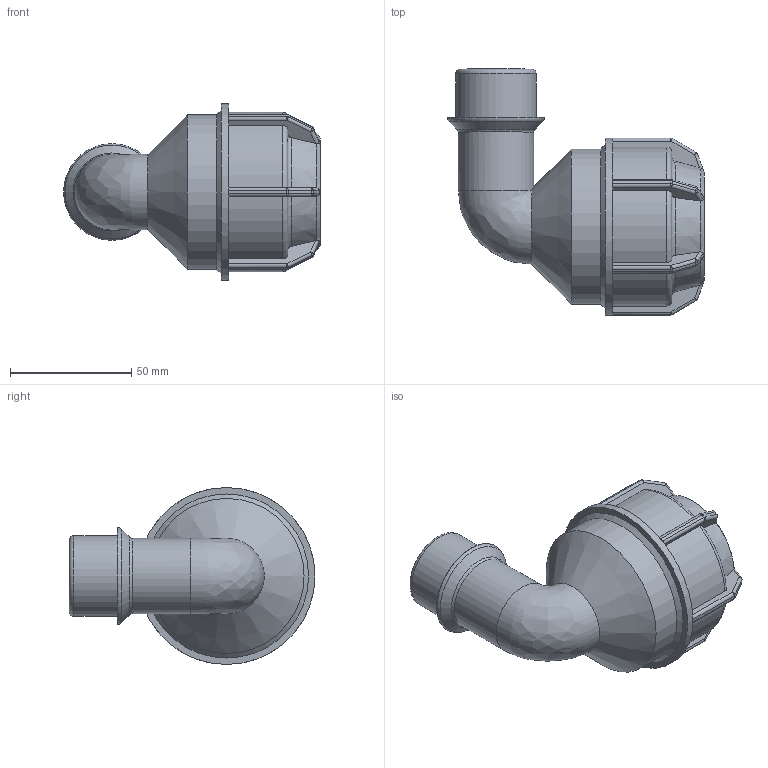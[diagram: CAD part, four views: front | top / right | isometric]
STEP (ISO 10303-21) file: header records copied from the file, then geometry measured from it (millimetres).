
FILE_DESCRIPTION(/* description */ ('PLASSON L.14 90° ELBOW MALE ADAPTOR (SILVER) 40-1"'),/* implementation_level */ '2;1');
FILE_NAME(/* name */ 'C:\Dropbox\KIMPROJECTS-Inventor\99-16-3568-Processing\Silver+MF ISRAEL\148500\148500040010.ipt.stp',/* time_stamp */ '2018-04-09T13:05:49+03:00',/* author */ ('KIM'),/* organization */ (''),/* preprocessor_version */ 'ST-DEVELOPER v15.6',/* originating_system */ 'Autodesk Inventor 2015',/* authorisation */ '');
FILE_SCHEMA (('AUTOMOTIVE_DESIGN { 1 0 10303 214 3 1 1 }'));
Length unit declared in the file: millimetre
Products named in the file (1): 148500040010
Bounding box: 105.95 x 101.5 x 73 mm (x, y, z)
Volume: 138093.6 mm3; surface area: 42656.9 mm2
Topology: 1 solids, 1 shells, 214 faces, 502 edges, 288 vertices
Faces by surface type: plane 98, cylinder 63, sphere 24, torus 18, cone 10, bspline 1
Full cylindrical faces by diameter (mm): 26.599 x2, 31.088 x1, 33.249 x1, 39.899 x1, 40 x2, 64 x1, 73 x1
Entity records: 6144 total; most frequent: CARTESIAN_POINT 1567, DIRECTION 964, ORIENTED_EDGE 926, EDGE_CURVE 463, AXIS2_PLACEMENT_3D 392, VERTEX_POINT 276, EDGE_LOOP 237, FACE_OUTER_BOUND 212
